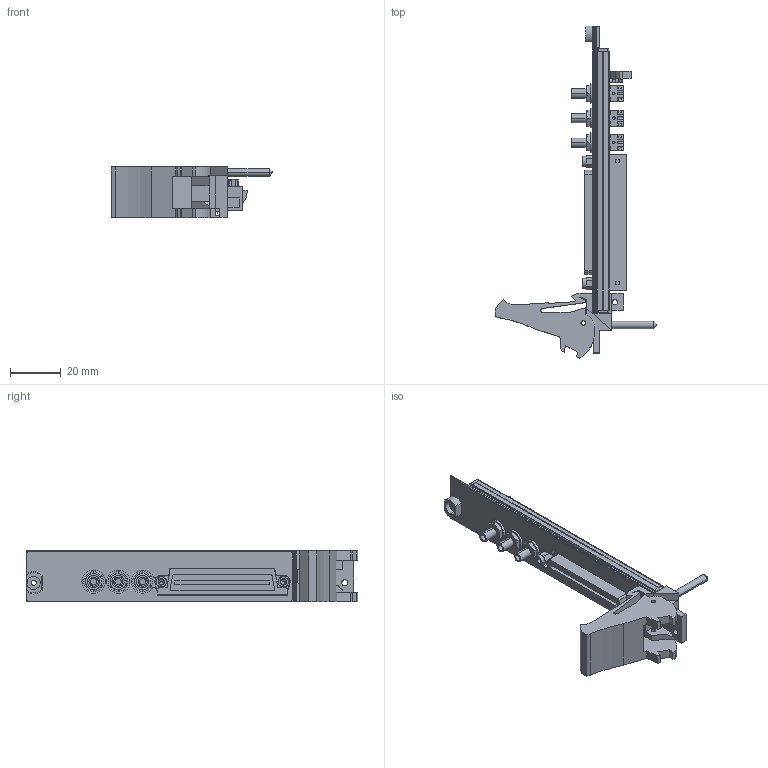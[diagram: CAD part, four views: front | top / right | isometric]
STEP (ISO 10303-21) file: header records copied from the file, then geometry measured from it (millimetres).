
FILE_DESCRIPTION((''),'2;1');
FILE_NAME('CU_PXI-6561','2007-08-10T',('lmcdanie'),(''),'PRO/ENGINEER BY PARAMETRIC TECHNOLOGY CORPORATION, 2006080','PRO/ENGINEER BY PARAMETRIC TECHNOLOGY CORPORATION, 2006080','');
FILE_SCHEMA(('CONFIG_CONTROL_DESIGN'));
Length unit declared in the file: inch
Products named in the file (1): CU_PXI-6561
Bounding box: 63.53 x 130.62 x 20.31 mm (x, y, z)
Volume: 22113.6 mm3; surface area: 21048 mm2
Topology: 7 solids, 7 shells, 662 faces, 1720 edges, 1119 vertices
Faces by surface type: plane 445, cylinder 187, cone 26, sphere 4
Entity records: 21046 total; most frequent: CARTESIAN_POINT 4447, ORIENTED_EDGE 3424, DIRECTION 3421, EDGE_CURVE 1712, VECTOR 1237, LINE 1237, VERTEX_POINT 1119, AXIS2_PLACEMENT_3D 1092
